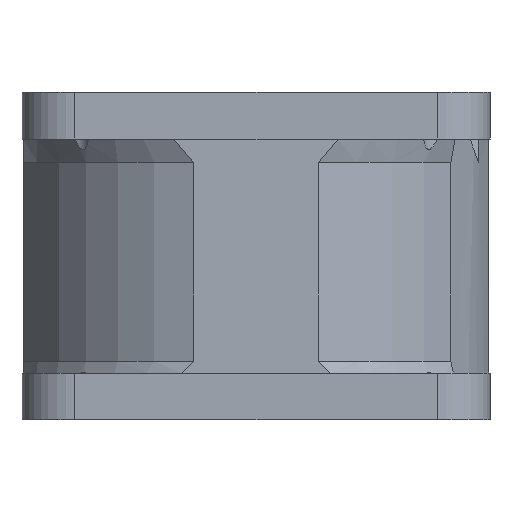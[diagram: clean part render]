
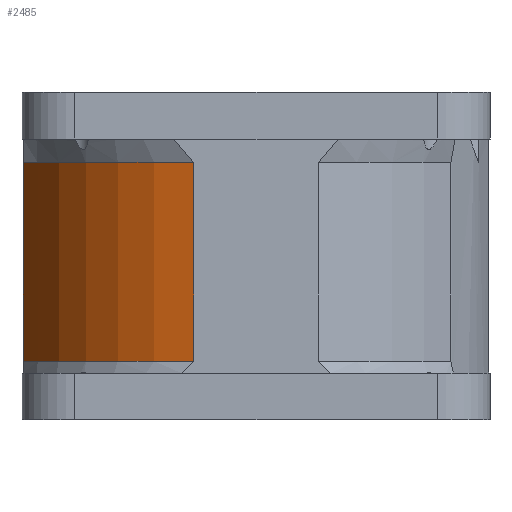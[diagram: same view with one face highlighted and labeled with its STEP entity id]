
A CAD part, front view. The second image highlights one B-rep face of the part: STEP entity #2485.
In plain terms, the highlighted cylindrical face has radius 20.6 mm (diameter 41.2 mm), a partial arc.
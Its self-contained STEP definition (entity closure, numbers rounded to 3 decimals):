
#1612 = LINE ( 'NONE', #13958, #11885 ) ;
#1759 = VERTEX_POINT ( 'NONE', #12404 ) ;
#2183 = AXIS2_PLACEMENT_3D ( 'NONE', #15456, #15423, #15478 ) ;
#2485 = ADVANCED_FACE ( 'NONE', ( #13524 ), #7624, .T. ) ;
#2937 = EDGE_CURVE ( 'NONE', #13619, #7141, #1612, .T. ) ;
#3113 = ORIENTED_EDGE ( 'NONE', *, *, #15993, .F. ) ;
#3447 = CARTESIAN_POINT ( 'NONE',  ( 0., 0., -6. ) ) ;
#3502 = EDGE_CURVE ( 'NONE', #7141, #14596, #5758, .T. ) ;
#4816 = DIRECTION ( 'NONE',  ( 1., 0., 0. ) ) ;
#5758 = CIRCLE ( 'NONE', #13475, 20.6 ) ;
#6813 = EDGE_CURVE ( 'NONE', #14596, #1759, #16743, .T. ) ;
#7141 = VERTEX_POINT ( 'NONE', #12115 ) ;
#7624 = CYLINDRICAL_SURFACE ( 'NONE', #2183, 20.6 ) ;
#8356 = CIRCLE ( 'NONE', #12105, 20.6 ) ;
#8746 = CARTESIAN_POINT ( 'NONE',  ( -5.324, -19.9, -6. ) ) ;
#10938 = ORIENTED_EDGE ( 'NONE', *, *, #2937, .F. ) ;
#11253 = DIRECTION ( 'NONE',  ( 0., 1., 0. ) ) ;
#11256 = DIRECTION ( 'NONE',  ( 0., 0., -1. ) ) ;
#11289 = CARTESIAN_POINT ( 'NONE',  ( 0., 0., -23. ) ) ;
#11885 = VECTOR ( 'NONE', #13963, 1000. ) ;
#12105 = AXIS2_PLACEMENT_3D ( 'NONE', #3447, #12859, #4816 ) ;
#12115 = CARTESIAN_POINT ( 'NONE',  ( -5.324, -19.9, -23. ) ) ;
#12404 = CARTESIAN_POINT ( 'NONE',  ( -19.9, -5.324, -6. ) ) ;
#12859 = DIRECTION ( 'NONE',  ( 0., 0., 1. ) ) ;
#13377 = ORIENTED_EDGE ( 'NONE', *, *, #6813, .F. ) ;
#13475 = AXIS2_PLACEMENT_3D ( 'NONE', #11289, #11256, #11253 ) ;
#13524 = FACE_OUTER_BOUND ( 'NONE', #16463, .T. ) ;
#13619 = VERTEX_POINT ( 'NONE', #8746 ) ;
#13958 = CARTESIAN_POINT ( 'NONE',  ( -5.324, -19.9, -24. ) ) ;
#13963 = DIRECTION ( 'NONE',  ( 0., 0., -1. ) ) ;
#14121 = ORIENTED_EDGE ( 'NONE', *, *, #3502, .F. ) ;
#14444 = CARTESIAN_POINT ( 'NONE',  ( -19.9, -5.324, -23. ) ) ;
#14596 = VERTEX_POINT ( 'NONE', #14444 ) ;
#15423 = DIRECTION ( 'NONE',  ( 0., 0., -1. ) ) ;
#15456 = CARTESIAN_POINT ( 'NONE',  ( 0., 0., -29.4 ) ) ;
#15478 = DIRECTION ( 'NONE',  ( -1., 0., 0. ) ) ;
#15917 = DIRECTION ( 'NONE',  ( 0., 0., 1. ) ) ;
#15993 = EDGE_CURVE ( 'NONE', #1759, #13619, #8356, .T. ) ;
#16113 = CARTESIAN_POINT ( 'NONE',  ( -19.9, -5.324, -24. ) ) ;
#16336 = VECTOR ( 'NONE', #15917, 1000. ) ;
#16463 = EDGE_LOOP ( 'NONE', ( #10938, #3113, #13377, #14121 ) ) ;
#16743 = LINE ( 'NONE', #16113, #16336 ) ;
